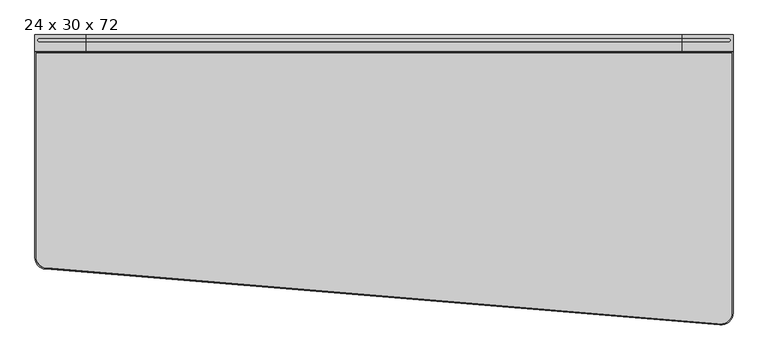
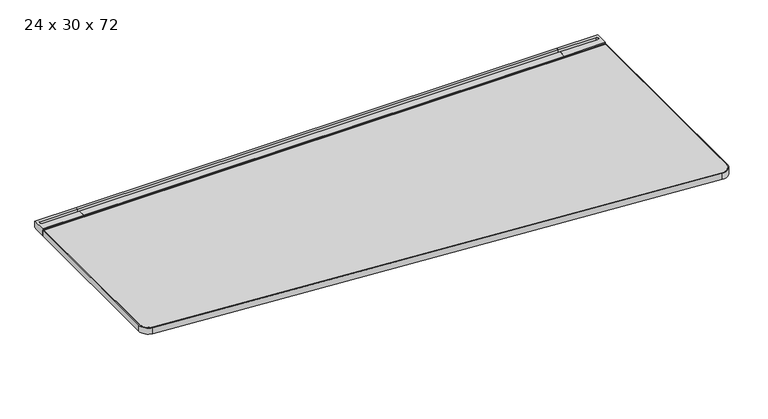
"""IFC4 building model written with IfcOpenShell, lengths in millimetres: furniture geometry, Steelcase - C Scape - Desking - Right Hand Tapered : 24 x 30 x 72."""

from ifc_helpers import new_model, si_unit, point, frame, frame_2d, origin, place, context, project, spatial, polyline, circle_curve, trimmed, segment, composite_curve, outline, extrude, faceted_brep, source, transform, mapped, element, save
from ifc_brep_helpers import plane_surface, cylinder_surface, revolved_surface, advanced_brep


def furniture_24_x_30_x_72_d45b0edc(model_context):
    return source(origin(), model_context, "Body", "SolidModel", [
        advanced_brep(
        [(1694.1927124, -45.3135132, 703.3768), (1694.1927124, -45.3135132, 722.4268341), (1694.1927124, -42.7750923, 722.4268341), (1694.1927124, -42.7750923, 725.932), (1694.1927124, -19.3290527, 725.932), (1694.1927124, -19.3290527, 713.486), (1694.1927124, -8.5111084, 713.486), (1694.1927124, -8.5111084, 725.932), (1694.1927124, 0.0, 725.932), (1694.1927124, 0.0, 705.1038636), (1694.1927124, -3.2278472, 705.1038636), (1694.1927124, -4.0331902, 703.3768), (1827.2125, -45.3135132, 703.3768), (1827.2125, -4.0331902, 703.3768), (1827.2125, -3.2278472, 705.1038636), (1827.2125, 0.0, 705.1038636), (1827.2125, 0.0, 725.932), (1827.2125, -42.7750923, 725.932), (1827.2125, -42.7750923, 722.4268341), (1827.2125, -45.3135132, 722.4268341), (1815.4504272, -8.5111084, 725.932), (1815.4504272, -19.3290527, 725.932), (1815.4504272, -19.3290527, 713.486), (1815.4504272, -8.5111084, 713.486)],
        [
            (0, 1),
            (1, 2),
            (2, 3),
            (3, 4),
            (4, 5),
            (5, 6),
            (6, 7),
            (7, 8),
            (8, 9),
            (9, 10),
            (10, 11),
            (11, 0),
            (12, 13),
            (13, 14),
            (14, 15),
            (15, 16),
            (16, 17),
            (17, 18),
            (18, 19),
            (19, 12),
            (11, 13),
            (12, 0),
            (10, 14),
            (9, 15),
            (8, 16),
            (7, 20),
            (20, 21, circle_curve(frame((1815.4504272, -13.9200806, 725.932), z_axis=(0.0, 0.0, -1.0), x_axis=(-1.0, 0.0, 0.0)), 5.4089722)),
            (21, 4),
            (3, 17),
            (2, 18),
            (1, 19),
            (5, 22),
            (22, 23, circle_curve(frame((1815.4504272, -13.9200806, 713.486), z_axis=(0.0, 0.0, 1.0), x_axis=(-1.0, 0.0, 0.0)), 5.4089722)),
            (23, 6),
            (23, 20),
            (22, 21),
        ],
        [
            plane_surface(frame((1694.1927124, -45.3135132, 703.3768), z_axis=(-1.0, 0.0, 0.0), x_axis=(0.0, 1.0, 0.0))),
            plane_surface(frame((1827.2125, -45.3135132, 703.3768), z_axis=(1.0, 0.0, 0.0), x_axis=(0.0, -1.0, 0.0))),
            plane_surface(frame((1694.1927124, -45.3135132, 703.3768), z_axis=(0.0, 0.0, -1.0), x_axis=(1.0, 0.0, 0.0))),
            plane_surface(frame((1694.1927124, -4.0331902, 703.3768), z_axis=(0.0, 0.9063077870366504, -0.4226182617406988), x_axis=(1.0, 0.0, 0.0))),
            plane_surface(frame((1694.1927124, -3.2278472, 705.1038636), z_axis=(0.0, 0.0, -1.0), x_axis=(1.0, 0.0, 0.0))),
            plane_surface(frame((1694.1927124, 0.0, 705.1038636), z_axis=(0.0, 1.0, 0.0), x_axis=(1.0, 0.0, 0.0))),
            plane_surface(frame((1694.1927124, 0.0, 725.932), z_axis=(0.0, 0.0, 1.0), x_axis=(1.0, 0.0, 0.0))),
            plane_surface(frame((1694.1927124, -42.7750923, 725.932), z_axis=(0.0, -1.0, 0.0), x_axis=(1.0, 0.0, 0.0))),
            plane_surface(frame((1694.1927124, -42.7750923, 722.4268341), z_axis=(0.0, 0.0, 1.0), x_axis=(1.0, 0.0, 0.0))),
            plane_surface(frame((1694.1927124, -45.3135132, 722.4268341), z_axis=(0.0, -1.0, 0.0), x_axis=(1.0, 0.0, 0.0))),
            plane_surface(frame((1815.4504272, -8.5111084, 713.486), z_axis=(0.0, 0.0, 1.0), x_axis=(-1.0, 0.0, 0.0))),
            plane_surface(frame((1694.1927124, -8.5111084, 731.2180541), z_axis=(0.0, -1.0, 0.0), x_axis=(0.0, 0.0, -1.0))),
            revolved_surface(polyline([(1810.0414549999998, -13.9200806, 725.932), (1810.0414549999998, -13.9200806, 713.486)]), (1815.4504272, -13.9200806, 713.486), (0.0, 0.0, 1.0)),
            plane_surface(frame((1815.4504272, -19.3290527, 731.2180541), z_axis=(0.0, 1.0, 0.0), x_axis=(0.0, 0.0, -1.0))),
        ],
        [
            (0, [[1, 2, 3, 4, 5, 6, 7, 8, 9, 10, 11, 12]]),
            (1, [[13, 14, 15, 16, 17, 18, 19, 20]]),
            (2, [[21, -13, 22, -12]]),
            (3, [[23, -14, -21, -11]]),
            (4, [[24, -15, -23, -10]]),
            (5, [[25, -16, -24, -9]]),
            (6, [[-25, -8, 26, 27, 28, -4, 29, -17]]),
            (7, [[30, -18, -29, -3]]),
            (8, [[31, -19, -30, -2]]),
            (9, [[-22, -20, -31, -1]]),
            (10, [[-6, 32, 33, 34]]),
            (11, [[35, -26, -7, -34]]),
            (12, [[36, -27, -35, -33]]),
            (13, [[-5, -28, -36, -32]]),
        ],
    ),
        faceted_brep([(1808.1617368, -565.0752923, 700.7093833), (1808.1617368, -565.0752923, 703.3768), (1694.1927124, -565.0752923, 703.3768), (1694.1927124, -565.0752923, 679.3263935), (1709.8268699, -565.0752923, 679.3263935), (1712.4474121, -565.0752923, 693.4200291), (1793.8866272, -565.0752923, 693.4200291), (1808.1617368, -4.0331902, 700.7093833), (1793.8866272, -4.0331902, 693.4200291), (1712.4474121, -4.0331902, 693.4200291), (1700.5411653, -4.0331902, 629.3866), (1694.1927124, -4.0331902, 629.3866), (1694.1927124, -4.0331902, 703.3768), (1808.1617368, -4.0331902, 703.3768), (1707.6615949, -376.5599397, 667.6812472), (1700.5411653, -364.1172546, 629.3866), (1694.1927124, -364.1172546, 629.3866), (1694.1927124, -376.5599397, 667.6812472)], [[[0, 1, 2, 3, 4, 5, 6]], [[7, 8, 9, 10, 11, 12, 13]], [[6, 8, 7, 0]], [[5, 9, 8, 6]], [[9, 5, 4, 14, 15, 10]], [[10, 15, 16, 11]], [[11, 16, 17, 3, 2, 12]], [[1, 13, 12, 2]], [[0, 7, 13, 1]], [[14, 4, 3, 17]], [[17, 16, 15, 14]]]),
        extrude(outline(composite_curve([segment(polyline([(-293.5216187, 657.3775839), (-559.0022133, 680.1371551)]), True, "CONTINUOUS"), segment(trimmed(circle_curve(frame_2d((-558.7581271, 682.9843154)), 2.8576039), [point((-559.0022133, 680.1371551))], [point((-561.5383043, 682.3236226))], False, "CARTESIAN"), True, "CONTINUOUS"), segment(polyline([(-561.5383043, 682.3236226), (-566.0887542, 701.4717905), (-557.8334441, 701.4717905), (-557.8334441, 703.3768), (-442.6683806, 703.3768), (-442.6683806, 696.3917953), (-318.2108611, 696.3917953), (-318.2108611, 703.3768), (-293.5216187, 703.3768), (-293.5216187, 657.3775839)]), True, "CONTINUOUS")], self_intersect=False)), frame((877.824, 0.0, 0.0), z_axis=(1.0, 0.0, 0.0), x_axis=(0.0, 1.0, 0.0)), (0.0, 0.0, 1.0), 73.152),
        advanced_brep(
        [(134.6072876, -45.3135132, 703.3768), (134.6072876, -4.0331902, 703.3768), (134.6072876, -3.2278472, 705.1038636), (134.6072876, 0.0, 705.1038636), (134.6072876, 0.0, 725.932), (134.6072876, -8.5111084, 725.932), (134.6072876, -8.5111084, 713.486), (134.6072876, -19.3290527, 713.486), (134.6072876, -19.3290527, 725.932), (134.6072876, -42.7750923, 725.932), (134.6072876, -42.7750923, 722.4268341), (134.6072876, -45.3135132, 722.4268341), (1.5875, -45.3135132, 703.3768), (1.5875, -45.3135132, 722.4268341), (1.5875, -42.7750923, 722.4268341), (1.5875, -42.7750923, 725.932), (1.5875, 0.0, 725.932), (1.5875, 0.0, 705.1038636), (1.5875, -3.2278472, 705.1038636), (1.5875, -4.0331902, 703.3768), (13.3495728, -19.3290527, 725.932), (13.3495728, -8.5111084, 725.932), (13.3495728, -8.5111084, 713.486), (13.3495728, -19.3290527, 713.486)],
        [
            (0, 1),
            (1, 2),
            (2, 3),
            (3, 4),
            (4, 5),
            (5, 6),
            (6, 7),
            (7, 8),
            (8, 9),
            (9, 10),
            (10, 11),
            (11, 0),
            (12, 13),
            (13, 14),
            (14, 15),
            (15, 16),
            (16, 17),
            (17, 18),
            (18, 19),
            (19, 12),
            (0, 12),
            (19, 1),
            (18, 2),
            (17, 3),
            (16, 4),
            (15, 9),
            (8, 20),
            (20, 21, circle_curve(frame((13.3495728, -13.9200806, 725.932), z_axis=(0.0, 0.0, -1.0), x_axis=(1.0, 0.0, 0.0)), 5.4089722)),
            (21, 5),
            (14, 10),
            (13, 11),
            (6, 22),
            (22, 23, circle_curve(frame((13.3495728, -13.9200806, 713.486), z_axis=(0.0, 0.0, 1.0), x_axis=(1.0, 0.0, 0.0)), 5.4089722)),
            (23, 7),
            (21, 22),
            (20, 23),
        ],
        [
            plane_surface(frame((134.6072876, -45.3135132, 703.3768), z_axis=(1.0, 0.0, 0.0), x_axis=(0.0, 1.0, 0.0))),
            plane_surface(frame((1.5875, -45.3135132, 703.3768), z_axis=(-1.0, 0.0, 0.0), x_axis=(0.0, -1.0, 0.0))),
            plane_surface(frame((134.6072876, -45.3135132, 703.3768), z_axis=(0.0, 0.0, -1.0), x_axis=(-1.0, 0.0, 0.0))),
            plane_surface(frame((134.6072876, -4.0331902, 703.3768), z_axis=(0.0, 0.9063077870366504, -0.4226182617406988), x_axis=(-1.0, 0.0, 0.0))),
            plane_surface(frame((134.6072876, -3.2278472, 705.1038636), z_axis=(0.0, 0.0, -1.0), x_axis=(-1.0, 0.0, 0.0))),
            plane_surface(frame((134.6072876, 0.0, 705.1038636), z_axis=(0.0, 1.0, 0.0), x_axis=(-1.0, 0.0, 0.0))),
            plane_surface(frame((134.6072876, 0.0, 725.932), z_axis=(0.0, 0.0, 1.0), x_axis=(-1.0, 0.0, 0.0))),
            plane_surface(frame((134.6072876, -42.7750923, 725.932), z_axis=(0.0, -1.0, 0.0), x_axis=(-1.0, 0.0, 0.0))),
            plane_surface(frame((134.6072876, -42.7750923, 722.4268341), z_axis=(0.0, 0.0, 1.0), x_axis=(-1.0, 0.0, 0.0))),
            plane_surface(frame((134.6072876, -45.3135132, 722.4268341), z_axis=(0.0, -1.0, 0.0), x_axis=(-1.0, 0.0, 0.0))),
            plane_surface(frame((13.3495728, -8.5111084, 713.486), z_axis=(0.0, 0.0, 1.0), x_axis=(1.0, 0.0, 0.0))),
            plane_surface(frame((134.6072876, -8.5111084, 731.2180541), z_axis=(0.0, -1.0, 0.0), x_axis=(0.0, 0.0, -1.0))),
            revolved_surface(polyline([(18.758545, -13.9200806, 725.932), (18.758545, -13.9200806, 713.486)]), (13.3495728, -13.9200806, 713.486), (0.0, 0.0, 1.0)),
            plane_surface(frame((13.3495728, -19.3290527, 731.2180541), z_axis=(0.0, 1.0, 0.0), x_axis=(0.0, 0.0, -1.0))),
        ],
        [
            (0, [[1, 2, 3, 4, 5, 6, 7, 8, 9, 10, 11, 12]]),
            (1, [[13, 14, 15, 16, 17, 18, 19, 20]]),
            (2, [[-1, 21, -20, 22]]),
            (3, [[-2, -22, -19, 23]]),
            (4, [[-3, -23, -18, 24]]),
            (5, [[-4, -24, -17, 25]]),
            (6, [[-16, 26, -9, 27, 28, 29, -5, -25]]),
            (7, [[-10, -26, -15, 30]]),
            (8, [[-11, -30, -14, 31]]),
            (9, [[-12, -31, -13, -21]]),
            (10, [[32, 33, 34, -7]]),
            (11, [[-32, -6, -29, 35]]),
            (12, [[-33, -35, -28, 36]]),
            (13, [[-34, -36, -27, -8]]),
        ],
    ),
        faceted_brep([(20.6382632, -565.0752923, 700.7093833), (34.9133728, -565.0752923, 693.4200291), (116.3525879, -565.0752923, 693.4200291), (118.9731301, -565.0752923, 679.3263935), (134.6072876, -565.0752923, 679.3263935), (134.6072876, -565.0752923, 703.3768), (20.6382632, -565.0752923, 703.3768), (20.6382632, -4.0331902, 700.7093833), (20.6382632, -4.0331902, 703.3768), (134.6072876, -4.0331902, 703.3768), (134.6072876, -4.0331902, 629.3866), (128.2588347, -4.0331902, 629.3866), (116.3525879, -4.0331902, 693.4200291), (34.9133728, -4.0331902, 693.4200291), (128.2588347, -364.1172546, 629.3866), (121.1384051, -376.5599397, 667.6812472), (134.6072876, -364.1172546, 629.3866), (134.6072876, -376.5599397, 667.6812472)], [[[0, 1, 2, 3, 4, 5, 6]], [[7, 8, 9, 10, 11, 12, 13]], [[1, 0, 7, 13]], [[2, 1, 13, 12]], [[12, 11, 14, 15, 3, 2]], [[11, 10, 16, 14]], [[10, 9, 5, 4, 17, 16]], [[6, 5, 9, 8]], [[0, 6, 8, 7]], [[15, 17, 4, 3]], [[17, 15, 14, 16]]]),
        extrude(outline(polyline([(-8.5111084, 725.932), (0.0, 725.932), (0.0, 705.1038636), (-3.2278472, 705.1038636), (-4.0331902, 703.3768), (-45.3135132, 703.3768), (-45.3135132, 722.4268341), (-42.7750923, 722.4268341), (-42.7750923, 725.932), (-19.3290527, 725.932), (-19.3290527, 713.486), (-8.5111084, 713.486), (-8.5111084, 725.932)])), frame((134.6072876, 0.0, 0.0), z_axis=(1.0, 0.0, 0.0), x_axis=(0.0, 1.0, 0.0)), (0.0, 0.0, 1.0), 1559.5854248),
        extrude(outline(polyline([(134.6072876, -293.5216187), (134.6072876, -4.0331902), (1694.1927124, -4.0331902), (1694.1927124, -293.5216187), (134.6072876, -293.5216187)])), frame((0.0, 0.0, 629.3866), z_axis=(0.0, 0.0, 1.0), x_axis=(1.0, 0.0, 0.0)), (0.0, 0.0, 1.0), 73.9902),
        extrude(outline(composite_curve([segment(polyline([(4.6355, -48.3660689), (1824.1645, -48.3660689), (1824.1645, -727.4584074)]), True, "CONTINUOUS"), segment(trimmed(circle_curve(frame_2d((1794.7399152, -727.4584074)), 29.4245848), [point((1824.1645, -727.4584074))], [point((1787.5992261, -756.0034025))], False, "CARTESIAN"), True, "CONTINUOUS"), segment(polyline([(1787.5992261, -756.0034025), (32.0559121, -610.6253514)]), True, "CONTINUOUS"), segment(trimmed(circle_curve(frame_2d((35.0928094, -580.3198247)), 30.4573094), [point((32.0559121, -610.6253514))], [point((4.6355, -580.3198247))], False, "CARTESIAN"), True, "CONTINUOUS"), segment(polyline([(4.6355, -580.3198247), (4.6355, -48.3660689)]), True, "CONTINUOUS")], self_intersect=False)), frame((0.0, 0.0, 703.3768), z_axis=(0.0, 0.0, 1.0), x_axis=(1.0, 0.0, 0.0)), (0.0, 0.0, 1.0), 20.5232),
        advanced_brep(
        [(1827.2125, -45.3150923, 703.3768), (1827.2125, -45.3150923, 723.9), (1827.2125, -727.9415979, 723.9), (1827.2125, -727.9415979, 703.3768), (1824.1615234, -48.3660689, 723.9), (1824.1615234, -48.3660689, 703.3768), (1824.1615234, -727.9415979, 703.3768), (1824.1615234, -727.9415979, 723.9), (1792.4527611, -759.548622, 703.3768), (1792.4527611, -759.548622, 723.9), (1792.7419782, -756.5113845, 723.9), (1792.7419782, -756.5113845, 703.3768), (28.8741289, -613.3822243, 723.9), (28.8741289, -613.3822243, 703.3768), (29.1261316, -610.3416729, 703.3768), (29.1261316, -610.3416729, 723.9), (1.5875, -583.3738283, 723.9), (1.5875, -45.3150923, 723.9), (4.6384766, -583.3738283, 723.9), (4.6384766, -48.3660689, 723.9), (1.5875, -583.3738283, 703.3768), (1.5875, -45.3150923, 703.3768), (4.6384766, -583.3738283, 703.3768), (4.6384766, -48.3660689, 703.3768)],
        [
            (0, 1),
            (1, 2),
            (2, 3),
            (3, 0),
            (4, 5),
            (5, 6),
            (6, 7),
            (7, 4),
            (8, 3, circle_curve(frame((1795.4625, -727.9415979, 703.3768), z_axis=(0.0, 0.0, 1.0), x_axis=(1.0, 0.0, 0.0)), 31.75)),
            (2, 9, circle_curve(frame((1795.4625, -727.9415979, 723.9), z_axis=(0.0, 0.0, -1.0), x_axis=(1.0, 0.0, 0.0)), 31.75)),
            (9, 8),
            (10, 7, circle_curve(frame((1795.4625, -727.9415979, 723.9), z_axis=(0.0, 0.0, 1.0), x_axis=(1.0, 0.0, 0.0)), 28.6990234)),
            (6, 11, circle_curve(frame((1795.4625, -727.9415979, 703.3768), z_axis=(0.0, 0.0, -1.0), x_axis=(1.0, 0.0, 0.0)), 28.6990234)),
            (11, 10),
            (9, 12),
            (12, 13),
            (13, 8),
            (11, 14),
            (14, 15),
            (15, 10),
            (16, 12, circle_curve(frame((31.7316405, -583.3738283, 723.9), z_axis=(0.0, 0.0, 1.0), x_axis=(-0.09479492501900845, -0.9954968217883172, 0.0)), 30.1441405)),
            (1, 17),
            (17, 16),
            (15, 18, circle_curve(frame((31.7316405, -583.3738283, 723.9), z_axis=(0.0, 0.0, -1.0), x_axis=(-0.09479492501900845, -0.9954968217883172, 0.0)), 27.0931639)),
            (18, 19),
            (19, 4),
            (20, 13, circle_curve(frame((31.7316405, -583.3738283, 703.3768), z_axis=(0.0, 0.0, 1.0), x_axis=(-0.09479492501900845, -0.9954968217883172, 0.0)), 30.1441405)),
            (16, 20),
            (20, 21),
            (21, 0),
            (22, 14, circle_curve(frame((31.7316405, -583.3738283, 703.3768), z_axis=(0.0, 0.0, 1.0), x_axis=(-0.09479492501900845, -0.9954968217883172, 0.0)), 27.0931639)),
            (5, 23),
            (23, 22),
            (22, 18),
            (17, 21),
            (23, 19),
        ],
        [
            plane_surface(frame((1827.2125, -45.3150923, 723.9), z_axis=(1.0, 0.0, 0.0), x_axis=(0.0, -1.0, 0.0))),
            plane_surface(frame((1824.1615234, -48.3660689, 703.3768), z_axis=(-1.0, 0.0, 0.0), x_axis=(0.0, -1.0, 0.0))),
            cylinder_surface(frame((1795.4625, -727.9415979, 0.0), z_axis=(0.0, 0.0, -1.0), x_axis=(1.0, 0.0, 0.0)), 31.75),
            revolved_surface(polyline([(1824.1615234, -727.9415979, 703.3768), (1824.1615234, -727.9415979, 723.9)]), (1795.4625, -727.9415979, 0.0), (0.0, 0.0, -1.0)),
            plane_surface(frame((1792.4527611, -759.548622, 723.9), z_axis=(-0.0825973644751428, -0.9965829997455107, 0.0), x_axis=(-0.9965829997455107, 0.0825973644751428, 0.0))),
            plane_surface(frame((1792.7419999, -756.5111568, 703.3768), z_axis=(0.08259736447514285, 0.9965829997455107, 0.0), x_axis=(-0.9965829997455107, 0.08259736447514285, 0.0))),
            plane_surface(frame((31.7316405, -583.3738283, 723.9), z_axis=(0.0, 0.0, 1.0), x_axis=(-0.09479492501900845, -0.9954968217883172, 0.0))),
            cylinder_surface(frame((31.7316405, -583.3738283, 0.0), z_axis=(0.0, 0.0, -1.0), x_axis=(-0.09479492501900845, -0.9954968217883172, 0.0)), 30.1441405),
            plane_surface(frame((31.7316405, -583.3738283, 703.3768), z_axis=(0.0, 0.0, -1.0), x_axis=(-0.09479492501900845, -0.9954968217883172, 0.0))),
            revolved_surface(polyline([(29.163346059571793, -610.34498685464, 703.3768), (29.163346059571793, -610.34498685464, 723.9)]), (31.7316405, -583.3738283, 0.0), (0.0, 0.0, -1.0)),
            plane_surface(frame((1.5875, -583.3738283, 723.9), z_axis=(-1.0, 0.0, 0.0), x_axis=(0.0, 1.0, 0.0))),
            plane_surface(frame((4.6384766, -583.3738283, 703.3768), z_axis=(1.0, 0.0, 0.0), x_axis=(0.0, 1.0, 0.0))),
            plane_surface(frame((1.5875, -45.3150923, 723.9), z_axis=(0.0, 1.0, 0.0), x_axis=(1.0, 0.0, 0.0))),
            plane_surface(frame((4.6384766, -48.3660689, 703.3768), z_axis=(0.0, -1.0, 0.0), x_axis=(1.0, 0.0, 0.0))),
        ],
        [
            (0, [[1, 2, 3, 4]]),
            (1, [[5, 6, 7, 8]]),
            (2, [[9, -3, 10, 11]]),
            (3, [[12, -7, 13, 14]]),
            (4, [[-11, 15, 16, 17]]),
            (5, [[-14, 18, 19, 20]]),
            (6, [[21, -15, -10, -2, 22, 23], [-8, -12, -20, 24, 25, 26]]),
            (7, [[27, -16, -21, 28]]),
            (8, [[-4, -9, -17, -27, 29, 30], [31, -18, -13, -6, 32, 33]]),
            (9, [[-24, -19, -31, 34]]),
            (10, [[-28, -23, 35, -29]]),
            (11, [[-34, -33, 36, -25]]),
            (12, [[-35, -22, -1, -30]]),
            (13, [[-36, -32, -5, -26]]),
        ],
    ),
    ])


if __name__ == "__main__":
    model = new_model("IFC4")
    model_context = context("Model", 3, world=origin())
    ifc_project = project(units=[si_unit("LENGTHUNIT", "METRE", prefix="MILLI")], contexts=[model_context])
    site = spatial("IfcSite", under=ifc_project)
    building = spatial("IfcBuilding", under=site)
    placement = place(None, origin())
    furniture_24_x_30_x_72_shape = furniture_24_x_30_x_72_d45b0edc(model_context)
    element("IfcFurniture", 1, ObjectType="Steelcase - C Scape - Desking - Right Hand Tapered : 24 x 30 x 72", at=placement, inside=building, context=model_context, shape_type="MappedRepresentation", body=[
        mapped(furniture_24_x_30_x_72_shape, transform((0.0, 0.0, 0.0), x_axis=(1.0, 0.0, 0.0), y_axis=(0.0, 1.0, 0.0), z_axis=(0.0, 0.0, 1.0))),
    ])
    save(model, "model.ifc")
